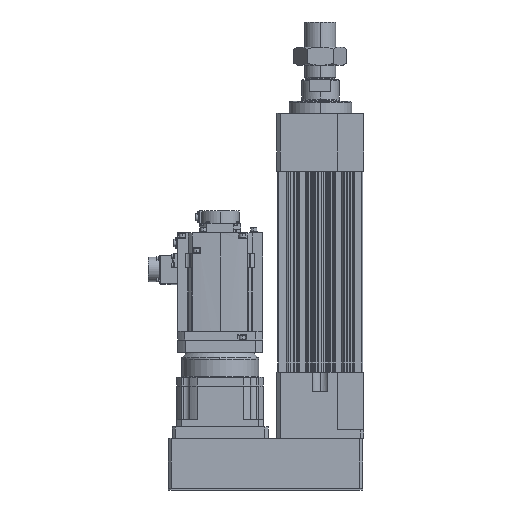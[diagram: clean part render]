
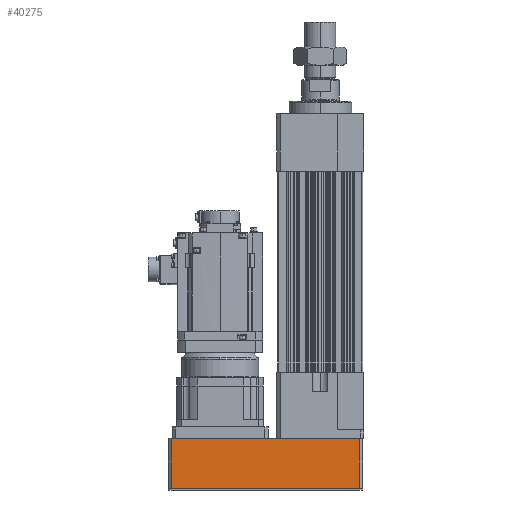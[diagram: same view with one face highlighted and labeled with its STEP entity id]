
A CAD part, left-side view. The second image highlights one B-rep face of the part: STEP entity #40275.
In plain terms, the highlighted planar face has unit normal (-1, 0, 0).
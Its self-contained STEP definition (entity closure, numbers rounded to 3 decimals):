
#392 = PLANE ( 'NONE',  #20753 ) ;
#543 = LINE ( 'NONE', #3035, #21100 ) ;
#3035 = CARTESIAN_POINT ( 'NONE',  ( -88., 82., 103.5 ) ) ;
#3948 = VERTEX_POINT ( 'NONE', #40724 ) ;
#5103 = EDGE_CURVE ( 'NONE', #23551, #46594, #30867, .T. ) ;
#7241 = CARTESIAN_POINT ( 'NONE',  ( -88., 88., 104. ) ) ;
#11377 = ORIENTED_EDGE ( 'NONE', *, *, #20346, .T. ) ;
#11533 = ORIENTED_EDGE ( 'NONE', *, *, #5103, .T. ) ;
#14884 = FACE_OUTER_BOUND ( 'NONE', #30826, .T. ) ;
#14900 = VECTOR ( 'NONE', #49327, 1000. ) ;
#15026 = VECTOR ( 'NONE', #30119, 1000. ) ;
#16889 = DIRECTION ( 'NONE',  ( 0., 1., 0. ) ) ;
#17740 = EDGE_CURVE ( 'NONE', #35384, #23551, #543, .T. ) ;
#19168 = ORIENTED_EDGE ( 'NONE', *, *, #35095, .T. ) ;
#19552 = CARTESIAN_POINT ( 'NONE',  ( -88., -310., 103.5 ) ) ;
#20346 = EDGE_CURVE ( 'NONE', #3948, #35384, #47320, .T. ) ;
#20438 = LINE ( 'NONE', #34024, #22439 ) ;
#20753 = AXIS2_PLACEMENT_3D ( 'NONE', #7241, #28495, #16889 ) ;
#21100 = VECTOR ( 'NONE', #36356, 1000. ) ;
#22439 = VECTOR ( 'NONE', #38256, 1000. ) ;
#23551 = VERTEX_POINT ( 'NONE', #48074 ) ;
#28495 = DIRECTION ( 'NONE',  ( 1., 0., 0. ) ) ;
#30119 = DIRECTION ( 'NONE',  ( 0., 0., -1. ) ) ;
#30826 = EDGE_LOOP ( 'NONE', ( #11533, #19168, #11377, #54726 ) ) ;
#30867 = LINE ( 'NONE', #47684, #15026 ) ;
#34024 = CARTESIAN_POINT ( 'NONE',  ( -88., 88., 0.5 ) ) ;
#35095 = EDGE_CURVE ( 'NONE', #46594, #3948, #20438, .T. ) ;
#35384 = VERTEX_POINT ( 'NONE', #19552 ) ;
#36356 = DIRECTION ( 'NONE',  ( 0., 1., 0. ) ) ;
#36411 = CARTESIAN_POINT ( 'NONE',  ( -88., -310., 104. ) ) ;
#38256 = DIRECTION ( 'NONE',  ( 0., -1., 0. ) ) ;
#40275 = ADVANCED_FACE ( 'NONE', ( #14884 ), #392, .F. ) ;
#40724 = CARTESIAN_POINT ( 'NONE',  ( -88., -310., 0.5 ) ) ;
#46594 = VERTEX_POINT ( 'NONE', #54698 ) ;
#47320 = LINE ( 'NONE', #36411, #14900 ) ;
#47684 = CARTESIAN_POINT ( 'NONE',  ( -88., 82., 104. ) ) ;
#48074 = CARTESIAN_POINT ( 'NONE',  ( -88., 82., 103.5 ) ) ;
#49327 = DIRECTION ( 'NONE',  ( 0., 0., 1. ) ) ;
#54698 = CARTESIAN_POINT ( 'NONE',  ( -88., 82., 0.5 ) ) ;
#54726 = ORIENTED_EDGE ( 'NONE', *, *, #17740, .T. ) ;
